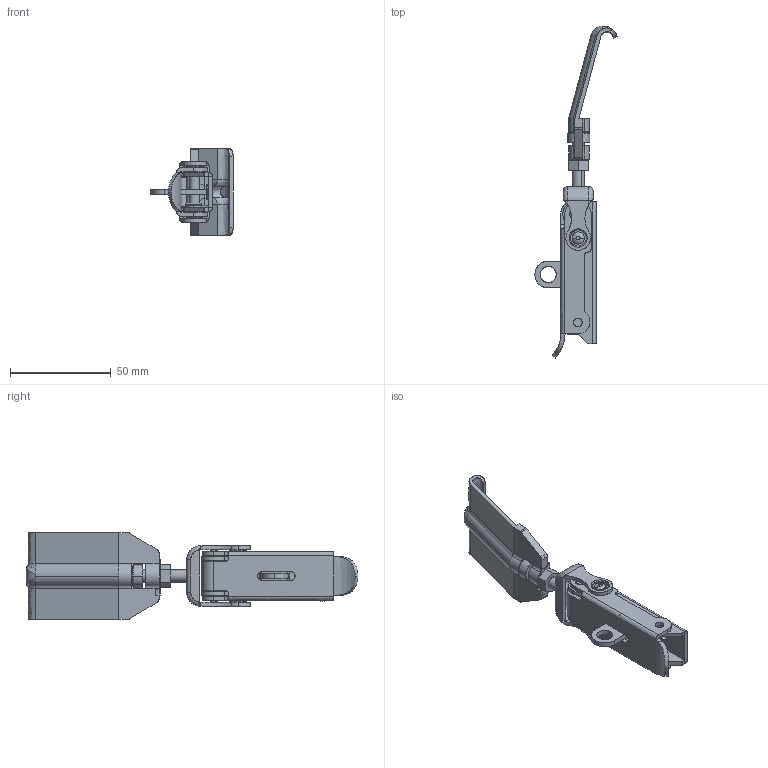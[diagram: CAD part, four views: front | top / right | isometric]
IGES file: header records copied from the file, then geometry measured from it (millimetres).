
Start section: SolidWorks IGES FILE using analytic representation for surfaces
Global section: file name: C:\Documents and Settings\lecoutey\Bureau\GR 96\GR 96.IGS; native system: SolidWorks 2004 by SolidWorks Corporation; preprocessor: Version 5.3; author: lecoutey; date: 050405.093417; units: millimetre
Bounding box: 40.83 x 164.72 x 43 mm (x, y, z)
Surface area: 27210 mm2 (no closed solid volume)
Topology: 0 solids, 0 shells, 448 faces, 5832 edges, 5801 vertices
Faces by surface type: bspline 225, revolution 223
